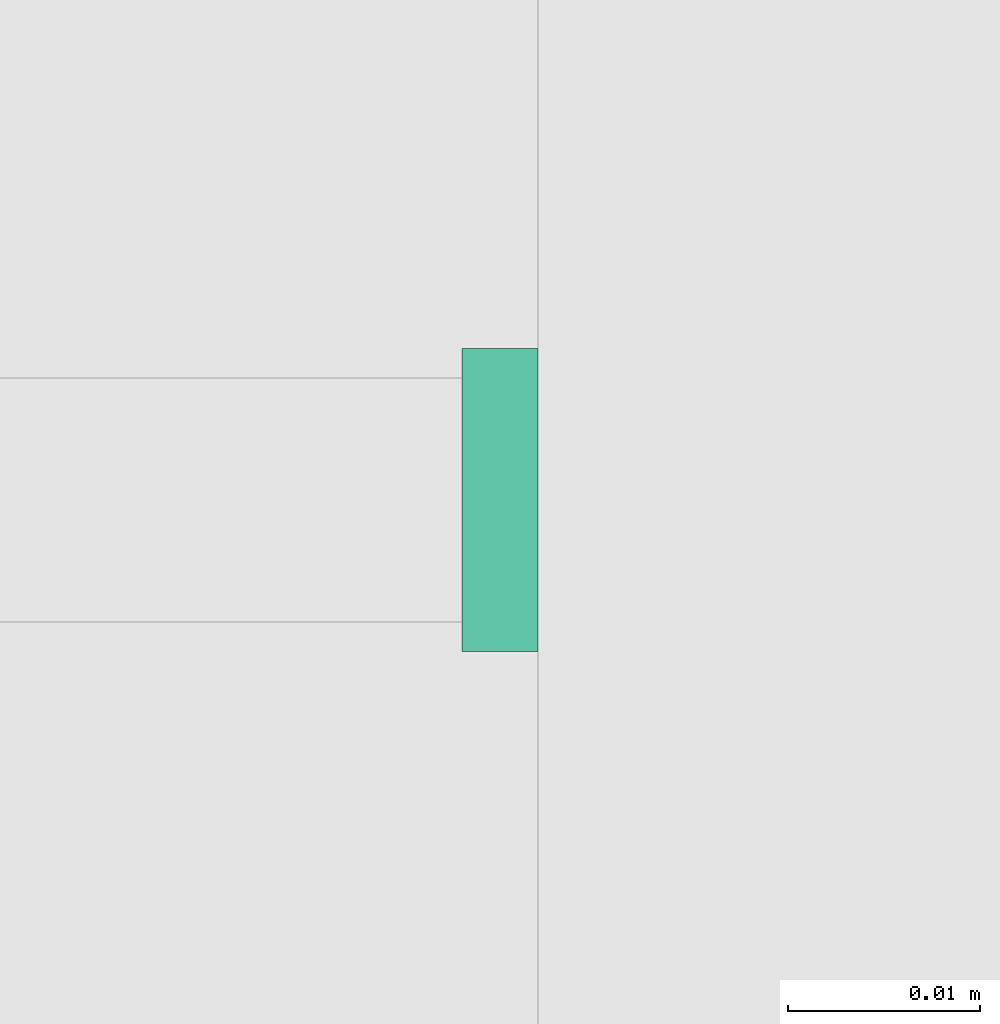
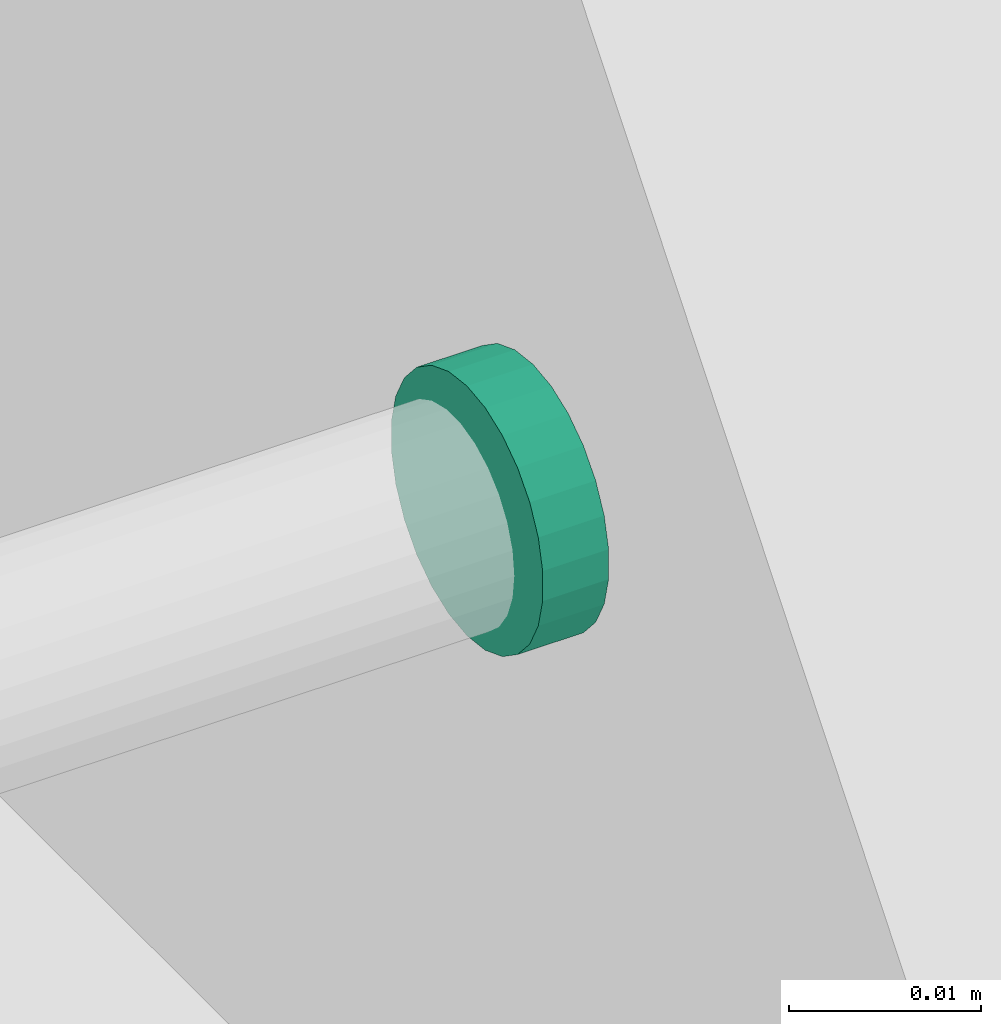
# One storey, part 16 of 22: 1 flow fitting.
"""IFC2X3 building model written with IfcOpenShell, lengths in millimetres."""

from ifc_helpers import new_model, entity, si_unit, converted_unit, derived_unit, direction, frame, origin, origin_2d_with_axis, place, context, subcontext, project, spatial, circle, extrude, source, transform, mapped, material, type_object, type_shapes, element, save


model = new_model("IFC2X3")

# Units and contexts
model_context = context("Model", 3, precision=0.01, world=origin(), true_north=direction((6.123031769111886e-17, 1.0)))
body_context = subcontext(model_context, "Body", "Model", "MODEL_VIEW")
ifc_project = project(units=[si_unit("LENGTHUNIT", "METRE", prefix="MILLI"), si_unit("AREAUNIT", "SQUARE_METRE"), si_unit("VOLUMEUNIT", "CUBIC_METRE"), converted_unit("PLANEANGLEUNIT", "DEGREE", entity("IfcRatioMeasure", 0.017453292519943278), si_unit("PLANEANGLEUNIT", "RADIAN"), dimensions=[0, 0, 0, 0, 0, 0, 0]), si_unit("MASSUNIT", "GRAM", prefix="KILO"), derived_unit("MASSDENSITYUNIT", [(si_unit("MASSUNIT", "GRAM", prefix="KILO"), 1), (si_unit("LENGTHUNIT", "METRE"), -3)]), derived_unit("MOMENTOFINERTIAUNIT", [(si_unit("LENGTHUNIT", "METRE"), 4)]), si_unit("TIMEUNIT", "SECOND"), si_unit("FREQUENCYUNIT", "HERTZ"), si_unit("THERMODYNAMICTEMPERATUREUNIT", "DEGREE_CELSIUS"), derived_unit("THERMALTRANSMITTANCEUNIT", [(si_unit("MASSUNIT", "GRAM", prefix="KILO"), 1), (si_unit("THERMODYNAMICTEMPERATUREUNIT", "KELVIN"), -1), (si_unit("TIMEUNIT", "SECOND"), -3)]), derived_unit("VOLUMETRICFLOWRATEUNIT", [(si_unit("LENGTHUNIT", "METRE"), 3), (si_unit("TIMEUNIT", "SECOND"), -1)]), derived_unit("MASSFLOWRATEUNIT", [(si_unit("MASSUNIT", "GRAM", prefix="KILO"), 1), (si_unit("TIMEUNIT", "SECOND"), -1)]), derived_unit("ROTATIONALFREQUENCYUNIT", [(si_unit("TIMEUNIT", "SECOND"), -1)]), si_unit("ELECTRICCURRENTUNIT", "AMPERE"), si_unit("ELECTRICVOLTAGEUNIT", "VOLT"), si_unit("POWERUNIT", "WATT"), si_unit("FORCEUNIT", "NEWTON", prefix="KILO"), si_unit("ILLUMINANCEUNIT", "LUX"), si_unit("LUMINOUSFLUXUNIT", "LUMEN"), si_unit("LUMINOUSINTENSITYUNIT", "CANDELA"), derived_unit("USERDEFINED", [(si_unit("MASSUNIT", "GRAM", prefix="KILO"), -1), (si_unit("LENGTHUNIT", "METRE"), -2), (si_unit("TIMEUNIT", "SECOND"), 3), (si_unit("LUMINOUSFLUXUNIT", "LUMEN"), 1)]), derived_unit("SOUNDPOWERUNIT", [(si_unit("MASSUNIT", "GRAM", prefix="KILO"), 1), (si_unit("LENGTHUNIT", "METRE"), 2), (si_unit("TIMEUNIT", "SECOND"), -3)]), derived_unit("SOUNDPRESSUREUNIT", [(si_unit("MASSUNIT", "GRAM", prefix="KILO"), 1), (si_unit("LENGTHUNIT", "METRE"), -1), (si_unit("TIMEUNIT", "SECOND"), -2)]), derived_unit("LINEARVELOCITYUNIT", [(si_unit("LENGTHUNIT", "METRE"), 1), (si_unit("TIMEUNIT", "SECOND"), -1)]), si_unit("PRESSUREUNIT", "PASCAL"), derived_unit("USERDEFINED", [(si_unit("LENGTHUNIT", "METRE"), -2), (si_unit("MASSUNIT", "GRAM", prefix="KILO"), 1), (si_unit("TIMEUNIT", "SECOND"), -2)]), derived_unit("LINEARFORCEUNIT", [(si_unit("MASSUNIT", "GRAM", prefix="KILO"), 1), (si_unit("LENGTHUNIT", "METRE"), 1), (si_unit("TIMEUNIT", "SECOND"), -2), (si_unit("LENGTHUNIT", "METRE"), -1)]), derived_unit("PLANARFORCEUNIT", [(si_unit("MASSUNIT", "GRAM", prefix="KILO"), 1), (si_unit("LENGTHUNIT", "METRE"), 1), (si_unit("TIMEUNIT", "SECOND"), -2), (si_unit("LENGTHUNIT", "METRE"), -2)])], contexts=[model_context])

# Site, building, storey
site_placement = place(None, origin())
site = spatial("IfcSite", under=ifc_project, at=site_placement, Name="Default", CompositionType="ELEMENT")
building_placement = place(site_placement, origin())
building = spatial("IfcBuilding", under=site, at=building_placement, CompositionType="ELEMENT")
storey_placement = place(building_placement, frame((0.0, 0.0, 3300.0)))
storey = spatial("IfcBuildingStorey", under=building, at=storey_placement, Name="Level 2", CompositionType="ELEMENT", Elevation=3299.99999999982)

# Flow fitting
ifc_material = material(Name="<Unnamed>")
pipe_fitting_type = type_object("IfcPipeFittingType", Name="M_Transition - Generic:Standard:Standard : M_Transition - Generic:Standard", PredefinedType="NOTDEFINED", material=ifc_material)
shared_shape = source(origin(), body_context, "Body", "SweptSolid", [
    extrude(circle(Radius=7.937500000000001, at=origin_2d_with_axis()), frame((-2403.92294470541, -2566.9353261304, 6010.0), z_axis=(1.0, 0.0, 0.0), x_axis=(0.0, 0.0, 1.0)), (0.0, 0.0, 1.0), 3.96874999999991),
])
type_shapes(pipe_fitting_type, [shared_shape])
flow_fitting_placement = place(storey_placement, frame((0.0, 0.0, -3300.0)))
element("IfcFlowFitting", 1, at=flow_fitting_placement, inside=storey, type_object=pipe_fitting_type, material=ifc_material, Name="M_Transition - Generic:Standard:Standard : M_Transition - Generic:Standard:Standard:Standard : M_Transition - Generic:Standard : M_Transition - Generic:Standard:Standard : M_Transition - Generic:Standard", ObjectType="M_Transition - Generic:Standard:Standard : M_Transition - Generic:Standard:Standard:Standard : M_Transition - Generic:Standard : M_Transition - Generic:Standard:Standard : M_Transition - Generic:Standard", context=body_context, shape_type="MappedRepresentation", body=[
    mapped(shared_shape, transform((0.0, 0.0, 0.0), scale=1.0)),
])

save(model, "model.ifc")
